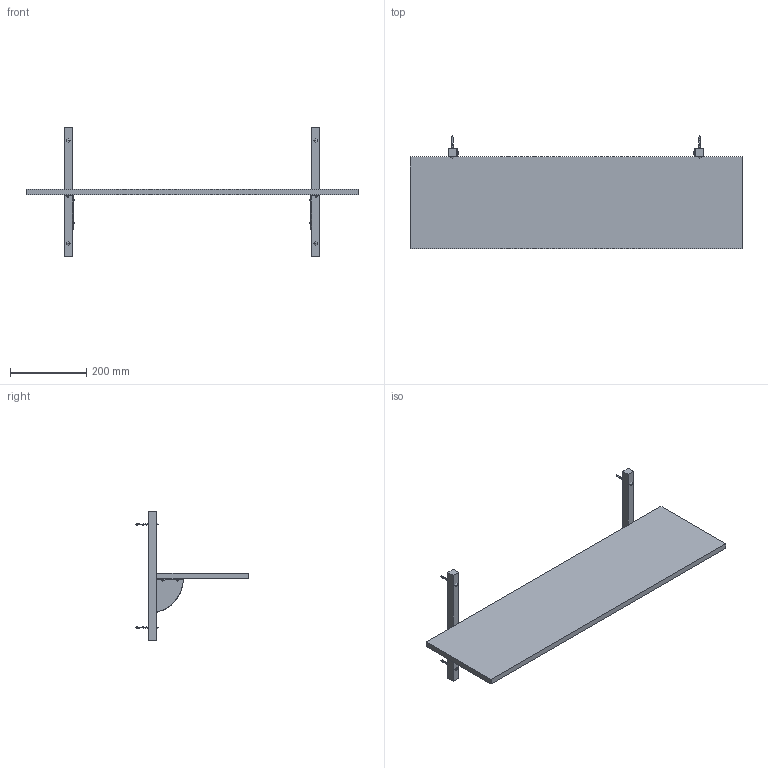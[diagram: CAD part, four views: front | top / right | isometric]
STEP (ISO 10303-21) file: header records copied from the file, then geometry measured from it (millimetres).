
FILE_DESCRIPTION(/* description */ (''),/* implementation_level */ '2;1');
FILE_NAME(/* name */ 'SIY117~G',/* time_stamp */ '2020-03-27T15:15:29+01:00',/* author */ (''),/* organization */ (''),/* preprocessor_version */ 'ST-DEVELOPER v16.5',/* originating_system */ '',/* authorisation */ '');
FILE_SCHEMA (('AUTOMOTIVE_DESIGN'));
Length unit declared in the file: millimetre
Products named in the file (1): Document
Bounding box: 870 x 296.06 x 339.99 mm (x, y, z)
Volume: 3468328 mm3; surface area: 553910.6 mm2
Topology: 33 solids, 97 shells, 304 faces, 850 edges, 612 vertices
Faces by surface type: bspline 154, plane 150
Entity records: 47602 total; most frequent: CARTESIAN_POINT 41905, ORIENTED_EDGE 1300, EDGE_CURVE 794, VERTEX_POINT 608, B_SPLINE_CURVE_WITH_KNOTS 470, EDGE_LOOP 332, ADVANCED_FACE 304, FACE_OUTER_BOUND 304
